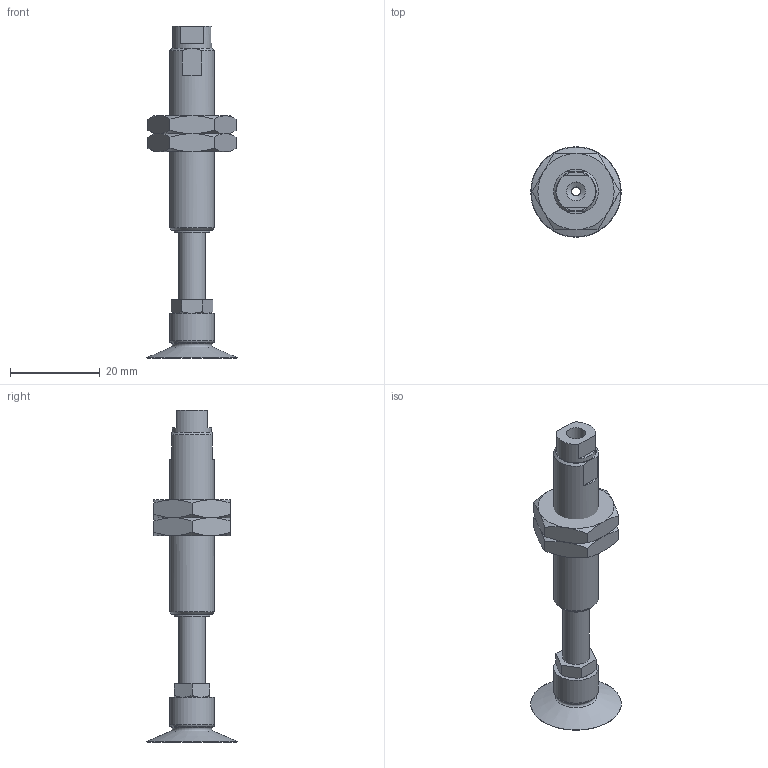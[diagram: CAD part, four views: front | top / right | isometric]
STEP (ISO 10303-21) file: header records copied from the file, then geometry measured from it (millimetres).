
FILE_DESCRIPTION(('STEP AP203'),'1');
FILE_NAME('-LB.stp','2025-10-10T05:22:17',(' '),(' '),'Spatial InterOp 3D',' ',' ');
FILE_SCHEMA(('CONFIG_CONTROL_DESIGN'));
Length unit declared in the file: millimetre
Products named in the file (8): BNABPATH-20A-15-※-LB; NUT; __; BODY; TN-PS-10-M5; Setting screws-TN-PS-10-M5; BPAG-20A-※
Assembly tree (7 placements, depth 3):
  BNABPATH-20A-15-※-LB
    NUT
    NUT
    __
    BODY
    TN-PS-10-M5
      Setting screws-TN-PS-10-M5
    BPAG-20A-※
Bounding box: 20.19 x 20.19 x 74 mm (x, y, z)
Volume: 5908.8 mm3; surface area: 5262 mm2
Topology: 6 solids, 6 shells, 162 faces, 321 edges, 197 vertices
Faces by surface type: plane 76, cone 41, cylinder 36, torus 9
Full cylindrical faces by diameter (mm): 0.9 x4, 1.1 x14, 2 x3, 3.9 x1, 4 x2, 4.2 x2, 5 x1, 6 x3, 8 x1, 8.7 x1, 9 x2, 10 x2
Entity records: 4334 total; most frequent: CARTESIAN_POINT 849, DIRECTION 668, ORIENTED_EDGE 516, AXIS2_PLACEMENT_3D 303, EDGE_CURVE 258, EDGE_LOOP 254, FACE_OUTER_BOUND 207, VERTEX_POINT 188
